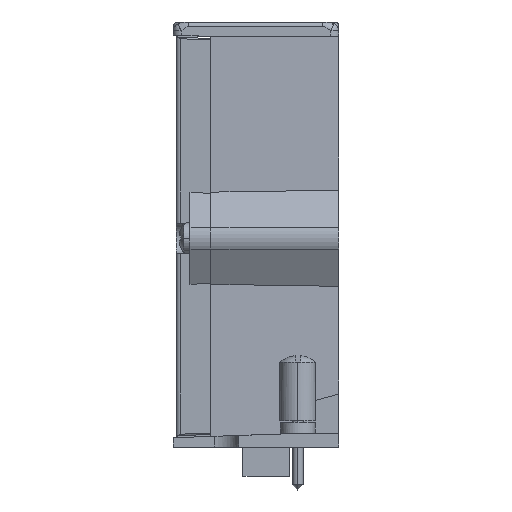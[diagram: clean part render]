
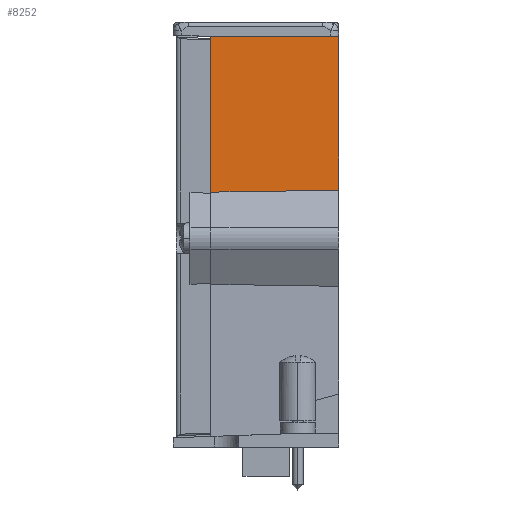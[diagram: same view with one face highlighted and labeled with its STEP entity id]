
A CAD part, left-side view. The second image highlights one B-rep face of the part: STEP entity #8252.
In plain terms, the highlighted planar face has unit normal (-1, -0.009, 0).
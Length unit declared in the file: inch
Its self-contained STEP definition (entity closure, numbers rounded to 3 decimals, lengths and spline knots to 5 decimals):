
#245=DIRECTION('',(0.,0.,-1.));
#246=VECTOR('',#245,1.11793);
#247=CARTESIAN_POINT('',(-3.06801,0.918,1.44891));
#248=LINE('',#247,#246);
#606=DIRECTION('',(0.009,-0.999,-0.035));
#607=VECTOR('',#606,0.03111);
#608=CARTESIAN_POINT('',(-3.06828,0.94909,1.45));
#609=LINE('',#608,#607);
#610=DIRECTION('',(-0.009,1.,0.));
#611=VECTOR('',#610,0.94912);
#612=CARTESIAN_POINT('',(-3.06,0.,1.45));
#613=LINE('',#612,#611);
#614=DIRECTION('',(0.,0.,-1.));
#615=VECTOR('',#614,1.10514);
#616=CARTESIAN_POINT('',(-3.06,0.,1.45));
#617=LINE('',#616,#615);
#618=DIRECTION('',(0.009,-1.,0.015));
#619=VECTOR('',#618,0.91814);
#620=CARTESIAN_POINT('',(-3.06801,0.918,0.33098));
#621=LINE('',#620,#619);
#6358=CARTESIAN_POINT('',(-3.06801,0.918,0.33098));
#6359=VERTEX_POINT('',#6358);
#6362=CARTESIAN_POINT('',(-3.06,0.,0.34486));
#6363=VERTEX_POINT('',#6362);
#6431=CARTESIAN_POINT('',(-3.06828,0.94909,1.45));
#6433=VERTEX_POINT('',#6431);
#6438=CARTESIAN_POINT('',(-3.06801,0.918,1.44891));
#6439=VERTEX_POINT('',#6438);
#6817=CARTESIAN_POINT('',(-3.06,0.,1.45));
#6818=VERTEX_POINT('',#6817);
#8237=CARTESIAN_POINT('',(-3.06,0.,-2.5908));
#8238=DIRECTION('',(-1.,-0.009,0.));
#8239=DIRECTION('',(0.,0.,1.));
#8240=AXIS2_PLACEMENT_3D('',#8237,#8238,#8239);
#8241=PLANE('',#8240);
#8243=ORIENTED_EDGE('',*,*,#8242,.F.);
#8245=ORIENTED_EDGE('',*,*,#8244,.F.);
#8247=ORIENTED_EDGE('',*,*,#8246,.T.);
#8248=ORIENTED_EDGE('',*,*,#8228,.F.);
#8249=ORIENTED_EDGE('',*,*,#7913,.F.);
#8250=EDGE_LOOP('',(#8243,#8245,#8247,#8248,#8249));
#8251=FACE_OUTER_BOUND('',#8250,.F.);
#8252=ADVANCED_FACE('',(#8251),#8241,.T.);
#7913=EDGE_CURVE('',#6439,#6359,#248,.T.);
#8228=EDGE_CURVE('',#6359,#6363,#621,.T.);
#8242=EDGE_CURVE('',#6433,#6439,#609,.T.);
#8244=EDGE_CURVE('',#6818,#6433,#613,.T.);
#8246=EDGE_CURVE('',#6818,#6363,#617,.T.);
